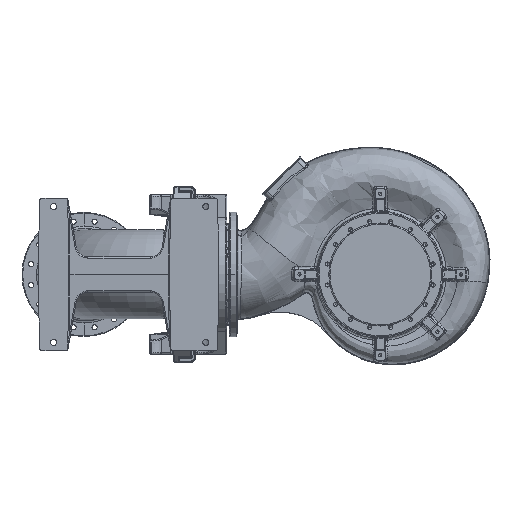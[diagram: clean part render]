
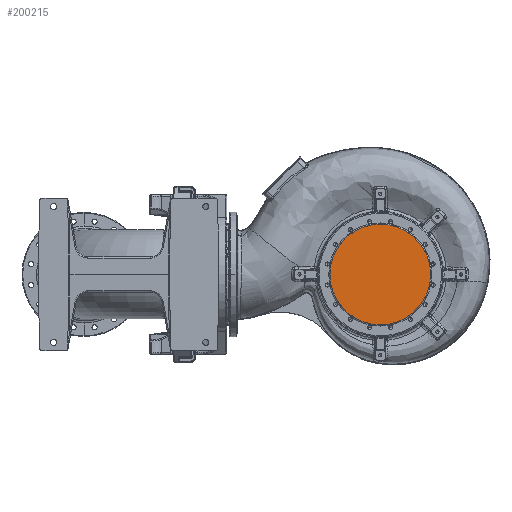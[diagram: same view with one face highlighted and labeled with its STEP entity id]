
A CAD part, front view. The second image highlights one B-rep face of the part: STEP entity #200215.
In plain terms, the highlighted planar face has unit normal (0, -1, 0).
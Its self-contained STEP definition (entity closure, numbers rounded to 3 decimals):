
#7661 = VERTEX_POINT ( 'NONE', #40580 ) ;
#14536 = CARTESIAN_POINT ( 'NONE',  ( -215., -578., 0. ) ) ;
#17679 = DIRECTION ( 'NONE',  ( 0., -1., 0. ) ) ;
#29558 = AXIS2_PLACEMENT_3D ( 'NONE', #14536, #157827, #35100 ) ;
#30558 = DIRECTION ( 'NONE',  ( 0., -1., 0. ) ) ;
#35100 = DIRECTION ( 'NONE',  ( 0., 0., 1. ) ) ;
#40580 = CARTESIAN_POINT ( 'NONE',  ( 0., -578., -215. ) ) ;
#44624 = AXIS2_PLACEMENT_3D ( 'NONE', #140312, #17679, #160991 ) ;
#54498 = VERTEX_POINT ( 'NONE', #113308 ) ;
#55617 = EDGE_LOOP ( 'NONE', ( #147499, #163463 ) ) ;
#67764 = AXIS2_PLACEMENT_3D ( 'NONE', #153283, #30558, #173906 ) ;
#94824 = CIRCLE ( 'NONE', #67764, 215. ) ;
#104808 = CIRCLE ( 'NONE', #44624, 215. ) ;
#107771 = EDGE_CURVE ( 'NONE', #7661, #54498, #104808, .T. ) ;
#111446 = FACE_OUTER_BOUND ( 'NONE', #55617, .T. ) ;
#113308 = CARTESIAN_POINT ( 'NONE',  ( 0., -578., 215. ) ) ;
#140312 = CARTESIAN_POINT ( 'NONE',  ( 0., -578., 0. ) ) ;
#147499 = ORIENTED_EDGE ( 'NONE', *, *, #107771, .T. ) ;
#153283 = CARTESIAN_POINT ( 'NONE',  ( 0., -578., 0. ) ) ;
#156075 = PLANE ( 'NONE',  #29558 ) ;
#157827 = DIRECTION ( 'NONE',  ( 0., -1., 0. ) ) ;
#160991 = DIRECTION ( 'NONE',  ( 0., 0., 1. ) ) ;
#163463 = ORIENTED_EDGE ( 'NONE', *, *, #229992, .T. ) ;
#173906 = DIRECTION ( 'NONE',  ( 0., 0., 1. ) ) ;
#200215 = ADVANCED_FACE ( 'NONE', ( #111446 ), #156075, .T. ) ;
#229992 = EDGE_CURVE ( 'NONE', #54498, #7661, #94824, .T. ) ;
